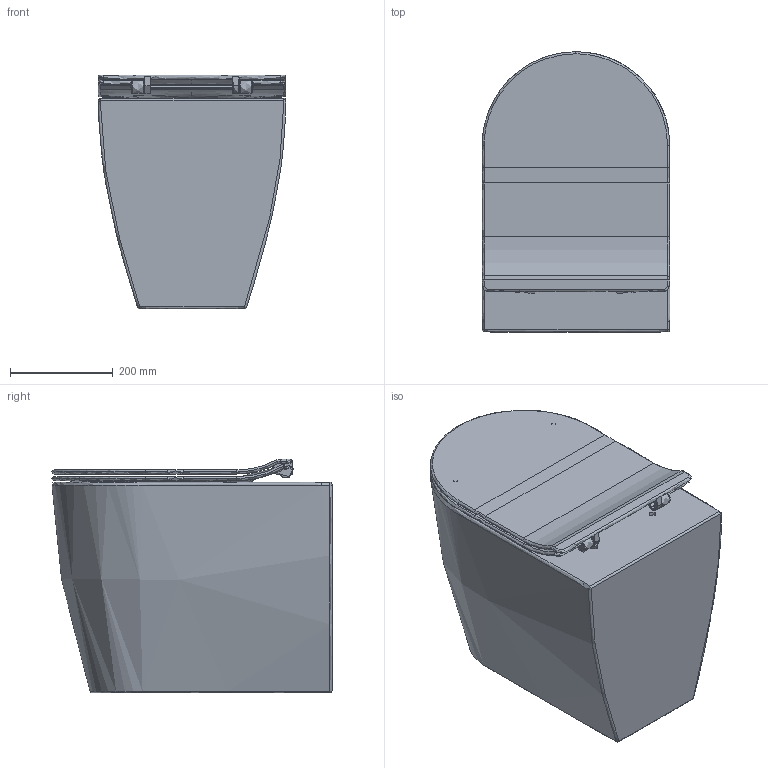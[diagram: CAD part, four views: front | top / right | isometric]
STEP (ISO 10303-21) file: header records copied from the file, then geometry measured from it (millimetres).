
FILE_DESCRIPTION(/* description */ (''),/* implementation_level */ '2;1');
FILE_NAME(/* name */ 'MOONWC~1',/* time_stamp */ '2017-11-27T11:03:19+01:00',/* author */ (''),/* organization */ (''),/* preprocessor_version */ 'ST-DEVELOPER v15',/* originating_system */ '',/* authorisation */ '');
FILE_SCHEMA (('AUTOMOTIVE_DESIGN'));
Length unit declared in the file: millimetre
Products named in the file (1): Document
Bounding box: 365.6 x 544.91 x 455.2 mm (x, y, z)
Surface area: 1840128.2 mm2 (no closed solid volume)
Topology: 0 solids, 7 shells, 572 faces, 1396 edges, 802 vertices
Faces by surface type: bspline 480, plane 92
Entity records: 38975 total; most frequent: CARTESIAN_POINT 31400, ORIENTED_EDGE 2690, EDGE_CURVE 1404, VERTEX_POINT 797, EDGE_LOOP 588, ADVANCED_FACE 563, FACE_OUTER_BOUND 563, B_SPLINE_CURVE_WITH_KNOTS 547
